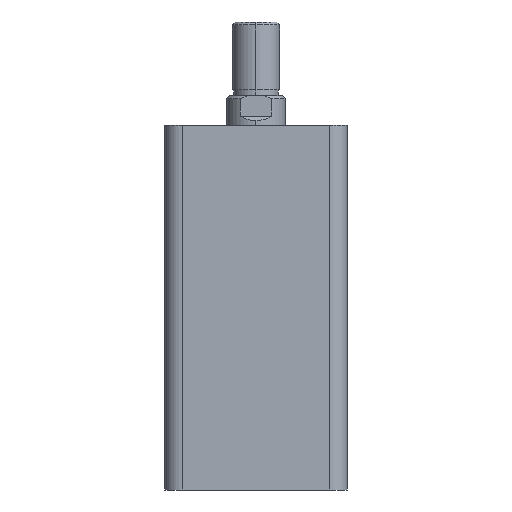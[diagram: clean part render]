
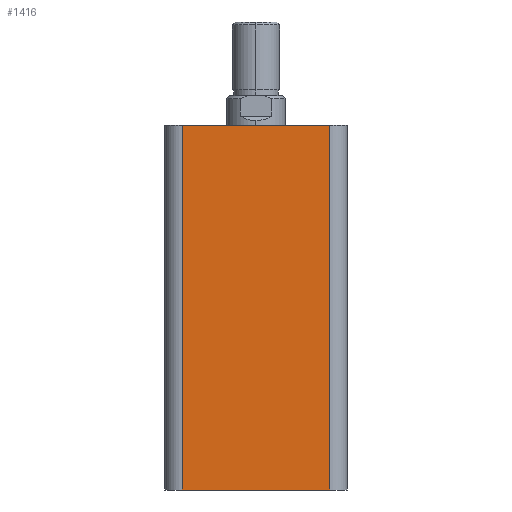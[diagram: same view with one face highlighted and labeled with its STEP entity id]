
A CAD part, left-side view. The second image highlights one B-rep face of the part: STEP entity #1416.
In plain terms, the highlighted planar face has unit normal (-1, 0, 0).
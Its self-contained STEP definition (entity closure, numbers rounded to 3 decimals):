
#183 = AXIS2_PLACEMENT_3D ( 'NONE', #3054, #3032, #3030 ) ;
#545 = CARTESIAN_POINT ( 'NONE',  ( -31., 31., 0. ) ) ;
#547 = DIRECTION ( 'NONE',  ( 0., -1., 0. ) ) ;
#749 = CARTESIAN_POINT ( 'NONE',  ( -31., -25., 124. ) ) ;
#750 = DIRECTION ( 'NONE',  ( 0., 0., 1. ) ) ;
#751 = CARTESIAN_POINT ( 'NONE',  ( -31., 25., 124. ) ) ;
#752 = DIRECTION ( 'NONE',  ( 0., 0., -1. ) ) ;
#1416 = ADVANCED_FACE ( 'NONE', ( #1510 ), #3038, .F. ) ;
#1510 = FACE_OUTER_BOUND ( 'NONE', #2508, .T. ) ;
#1885 = EDGE_CURVE ( 'NONE', #2282, #2259, #3674, .T. ) ;
#1931 = EDGE_CURVE ( 'NONE', #2259, #4796, #3735, .T. ) ;
#1932 = EDGE_CURVE ( 'NONE', #4726, #2282, #3737, .T. ) ;
#2259 = VERTEX_POINT ( 'NONE', #4415 ) ;
#2282 = VERTEX_POINT ( 'NONE', #4438 ) ;
#2508 = EDGE_LOOP ( 'NONE', ( #3498, #3499, #3500, #3501 ) ) ;
#3030 = DIRECTION ( 'NONE',  ( 0., 0., -1. ) ) ;
#3032 = DIRECTION ( 'NONE',  ( 1., 0., 0. ) ) ;
#3038 = PLANE ( 'NONE',  #183 ) ;
#3054 = CARTESIAN_POINT ( 'NONE',  ( -31., 31., 124. ) ) ;
#3498 = ORIENTED_EDGE ( 'NONE', *, *, #1885, .T. ) ;
#3499 = ORIENTED_EDGE ( 'NONE', *, *, #1931, .T. ) ;
#3500 = ORIENTED_EDGE ( 'NONE', *, *, #5045, .F. ) ;
#3501 = ORIENTED_EDGE ( 'NONE', *, *, #1932, .T. ) ;
#3674 = LINE ( 'NONE', #545, #3677 ) ;
#3677 = VECTOR ( 'NONE', #547, 1000. ) ;
#3735 = LINE ( 'NONE', #749, #3738 ) ;
#3737 = LINE ( 'NONE', #751, #3740 ) ;
#3738 = VECTOR ( 'NONE', #750, 1000. ) ;
#3740 = VECTOR ( 'NONE', #752, 1000. ) ;
#4144 = LINE ( 'NONE', #4645, #4146 ) ;
#4146 = VECTOR ( 'NONE', #4646, 1000. ) ;
#4415 = CARTESIAN_POINT ( 'NONE',  ( -31., -25., 0. ) ) ;
#4438 = CARTESIAN_POINT ( 'NONE',  ( -31., 25., 0. ) ) ;
#4503 = CARTESIAN_POINT ( 'NONE',  ( -31., 25., 124. ) ) ;
#4551 = CARTESIAN_POINT ( 'NONE',  ( -31., -25., 124. ) ) ;
#4645 = CARTESIAN_POINT ( 'NONE',  ( -31., 31., 124. ) ) ;
#4646 = DIRECTION ( 'NONE',  ( 0., -1., 0. ) ) ;
#4726 = VERTEX_POINT ( 'NONE', #4503 ) ;
#4796 = VERTEX_POINT ( 'NONE', #4551 ) ;
#5045 = EDGE_CURVE ( 'NONE', #4726, #4796, #4144, .T. ) ;
